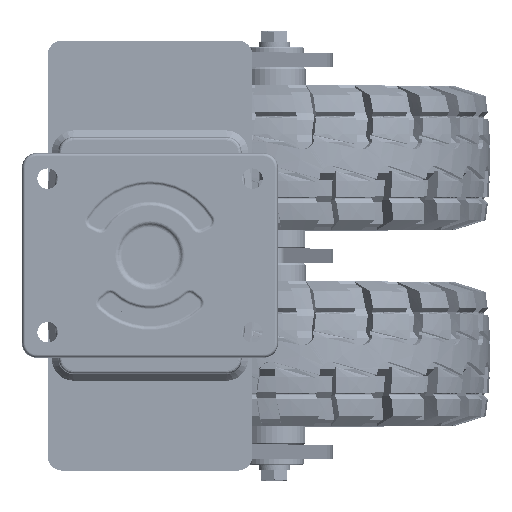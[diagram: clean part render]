
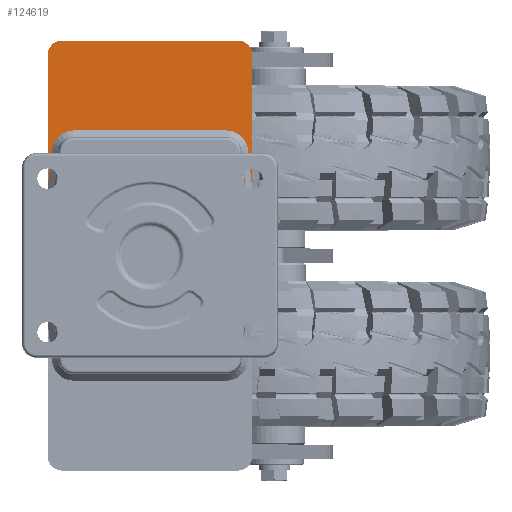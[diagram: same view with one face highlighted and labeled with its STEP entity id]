
A CAD part, top view. The second image highlights one B-rep face of the part: STEP entity #124619.
In plain terms, the highlighted planar face has unit normal (0, 0, 1).
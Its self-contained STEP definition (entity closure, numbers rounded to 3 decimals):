
#8022=B_SPLINE_CURVE_WITH_KNOTS('',3,(#222163,#222164,#222165,#222166,#222167,
#222168,#222169,#222170,#222171,#222172,#222173,#222174),.UNSPECIFIED.,
 .F.,.F.,(4,2,2,2,2,4),(-1.,-0.807,-0.602,-0.398,
-0.193,0.),.UNSPECIFIED.);
#8026=B_SPLINE_CURVE_WITH_KNOTS('',3,(#222256,#222257,#222258,#222259,#222260,
#222261,#222262,#222263,#222264,#222265,#222266,#222267),.UNSPECIFIED.,
 .F.,.F.,(4,2,2,2,2,4),(-1.,-0.807,-0.602,-0.398,
-0.193,0.),.UNSPECIFIED.);
#14348=PLANE('',#131731);
#18780=LINE('',#222104,#24081);
#18782=LINE('',#222197,#24083);
#18784=LINE('',#222289,#24085);
#18840=LINE('',#222602,#24141);
#18841=LINE('',#222606,#24142);
#18842=LINE('',#222609,#24143);
#24081=VECTOR('',#145855,10.);
#24083=VECTOR('',#145859,10.);
#24085=VECTOR('',#145863,10.);
#24141=VECTOR('',#145987,10.);
#24142=VECTOR('',#145990,10.);
#24143=VECTOR('',#145993,10.);
#38109=FACE_OUTER_BOUND('',#45279,.T.);
#45279=EDGE_LOOP('',(#102925,#102926,#102927,#102928,#102929,#102930,#102931,
#102932,#102933,#102934));
#50566=CIRCLE('',#131732,10.);
#50567=CIRCLE('',#131733,10.);
#58763=VERTEX_POINT('',#222067);
#58767=VERTEX_POINT('',#222076);
#58775=VERTEX_POINT('',#222103);
#58777=VERTEX_POINT('',#222162);
#58779=VERTEX_POINT('',#222196);
#58781=VERTEX_POINT('',#222255);
#58833=VERTEX_POINT('',#222601);
#58834=VERTEX_POINT('',#222603);
#58835=VERTEX_POINT('',#222605);
#58836=VERTEX_POINT('',#222607);
#74289=EDGE_CURVE('',#58775,#58767,#18780,.T.);
#74292=EDGE_CURVE('',#58777,#58775,#8022,.T.);
#74295=EDGE_CURVE('',#58779,#58777,#18782,.T.);
#74298=EDGE_CURVE('',#58781,#58779,#8026,.T.);
#74301=EDGE_CURVE('',#58763,#58781,#18784,.T.);
#74377=EDGE_CURVE('',#58767,#58833,#18840,.T.);
#74378=EDGE_CURVE('',#58833,#58834,#50566,.T.);
#74379=EDGE_CURVE('',#58834,#58835,#18841,.T.);
#74380=EDGE_CURVE('',#58835,#58836,#50567,.T.);
#74381=EDGE_CURVE('',#58836,#58763,#18842,.T.);
#102925=ORIENTED_EDGE('',*,*,#74301,.T.);
#102926=ORIENTED_EDGE('',*,*,#74298,.T.);
#102927=ORIENTED_EDGE('',*,*,#74295,.T.);
#102928=ORIENTED_EDGE('',*,*,#74292,.T.);
#102929=ORIENTED_EDGE('',*,*,#74289,.T.);
#102930=ORIENTED_EDGE('',*,*,#74377,.T.);
#102931=ORIENTED_EDGE('',*,*,#74378,.T.);
#102932=ORIENTED_EDGE('',*,*,#74379,.T.);
#102933=ORIENTED_EDGE('',*,*,#74380,.T.);
#102934=ORIENTED_EDGE('',*,*,#74381,.T.);
#124619=ADVANCED_FACE('',(#38109),#14348,.T.);
#131731=AXIS2_PLACEMENT_3D('',#222600,#145985,#145986);
#131732=AXIS2_PLACEMENT_3D('',#222604,#145988,#145989);
#131733=AXIS2_PLACEMENT_3D('',#222608,#145991,#145992);
#145855=DIRECTION('',(0.11,-0.994,0.));
#145859=DIRECTION('',(1.,0.,0.));
#145863=DIRECTION('',(0.11,0.994,0.));
#145985=DIRECTION('center_axis',(0.,0.,
1.));
#145986=DIRECTION('ref_axis',(1.,0.,0.));
#145987=DIRECTION('',(0.,1.,0.));
#145988=DIRECTION('center_axis',(0.,0.,
1.));
#145989=DIRECTION('ref_axis',(1.,0.,0.));
#145990=DIRECTION('',(-1.,0.,0.));
#145991=DIRECTION('center_axis',(0.,0.,
1.));
#145992=DIRECTION('ref_axis',(0.,1.,0.));
#145993=DIRECTION('',(0.,-1.,0.));
#222067=CARTESIAN_POINT('',(-70.,45.094,-41.));
#222076=CARTESIAN_POINT('',(70.,45.094,-41.));
#222103=CARTESIAN_POINT('',(67.011,72.229,-41.));
#222104=CARTESIAN_POINT('',(72.034,26.627,-41.));
#222162=CARTESIAN_POINT('',(52.178,85.517,-41.));
#222163=CARTESIAN_POINT('Ctrl Pts',(52.178,85.517,-41.));
#222164=CARTESIAN_POINT('Ctrl Pts',(53.626,85.517,-41.));
#222165=CARTESIAN_POINT('Ctrl Pts',(55.142,85.287,-41.));
#222166=CARTESIAN_POINT('Ctrl Pts',(57.855,84.474,-41.));
#222167=CARTESIAN_POINT('Ctrl Pts',(59.192,83.852,-41.));
#222168=CARTESIAN_POINT('Ctrl Pts',(61.626,82.245,-41.));
#222169=CARTESIAN_POINT('Ctrl Pts',(62.723,81.261,-41.));
#222170=CARTESIAN_POINT('Ctrl Pts',(64.587,79.018,-41.));
#222171=CARTESIAN_POINT('Ctrl Pts',(65.352,77.758,-41.));
#222172=CARTESIAN_POINT('Ctrl Pts',(66.457,75.15,-41.));
#222173=CARTESIAN_POINT('Ctrl Pts',(66.852,73.668,-41.));
#222174=CARTESIAN_POINT('Ctrl Pts',(67.011,72.229,-41.));
#222196=CARTESIAN_POINT('',(-52.178,85.517,-41.));
#222197=CARTESIAN_POINT('',(26.089,85.517,-41.));
#222255=CARTESIAN_POINT('',(-67.011,72.229,-41.));
#222256=CARTESIAN_POINT('Ctrl Pts',(-67.011,72.229,
-41.));
#222257=CARTESIAN_POINT('Ctrl Pts',(-66.852,73.668,-41.));
#222258=CARTESIAN_POINT('Ctrl Pts',(-66.457,75.15,
-41.));
#222259=CARTESIAN_POINT('Ctrl Pts',(-65.352,77.758,
-41.));
#222260=CARTESIAN_POINT('Ctrl Pts',(-64.587,79.018,
-41.));
#222261=CARTESIAN_POINT('Ctrl Pts',(-62.723,81.261,
-41.));
#222262=CARTESIAN_POINT('Ctrl Pts',(-61.626,82.245,
-41.));
#222263=CARTESIAN_POINT('Ctrl Pts',(-59.192,83.852,
-41.));
#222264=CARTESIAN_POINT('Ctrl Pts',(-57.855,84.474,
-41.));
#222265=CARTESIAN_POINT('Ctrl Pts',(-55.142,85.287,
-41.));
#222266=CARTESIAN_POINT('Ctrl Pts',(-53.626,85.517,
-41.));
#222267=CARTESIAN_POINT('Ctrl Pts',(-52.178,85.517,
-41.));
#222289=CARTESIAN_POINT('',(-70.54,40.194,-41.));
#222600=CARTESIAN_POINT('Origin',(0.,0.,
-41.));
#222601=CARTESIAN_POINT('',(70.,137.,-41.));
#222602=CARTESIAN_POINT('',(70.,-137.,-41.));
#222603=CARTESIAN_POINT('',(60.,147.,-41.));
#222604=CARTESIAN_POINT('Origin',(60.,137.,-41.));
#222605=CARTESIAN_POINT('',(-60.,147.,-41.));
#222606=CARTESIAN_POINT('',(60.,147.,-41.));
#222607=CARTESIAN_POINT('',(-70.,137.,-41.));
#222608=CARTESIAN_POINT('Origin',(-60.,137.,-41.));
#222609=CARTESIAN_POINT('',(-70.,137.,-41.));
